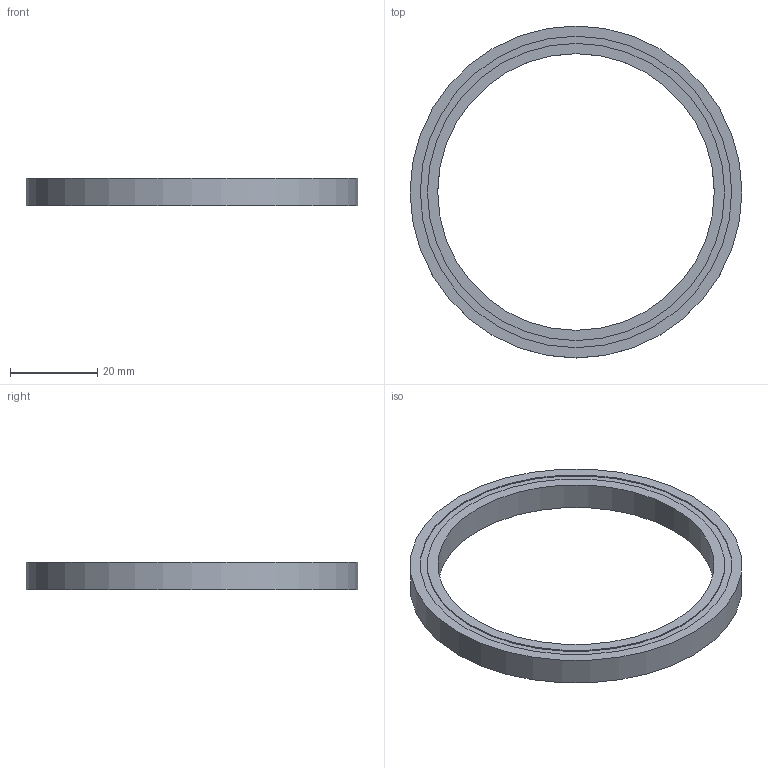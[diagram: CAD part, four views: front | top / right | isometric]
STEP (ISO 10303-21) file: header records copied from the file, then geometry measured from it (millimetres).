
FILE_DESCRIPTION(/* description */ ('STEP AP242 Edition 2','CAx-IF Rec.Pracs.---Representation and Presentation of Product Manufacturing Information (PMI)---4.0---2014-10-13','CAx-IF Rec.Pracs.---3D Tessellated Geometry---0.4---2014-09-14','2;1','CAx-IF Rec.Pracs.---User Defined Attributes---1.5---2016-08-15'),/* implementation_level */ '2;1');
FILE_NAME(/* name */ 'Main - 2.5- ID X-Contact Bearing (3- OD, 0.25- WD)',/* time_stamp */ '2026-09-13T15:49:56Z',/* author */ (''),/* organization */ (''),/* preprocessor_version */ 'ST-DEVELOPER v20',/* originating_system */ 'ONSHAPE BY PTC INC, 1.220',/* authorisation */ ' ');
FILE_SCHEMA (('AP242_MANAGED_MODEL_BASED_3D_ENGINEERING_MIM_LF { 1 0 10303 442 3 1 4 }'));
Length unit declared in the file: metre
Products named in the file (1): 2.5" ID X-Contact Bearing (3" OD, 0.25" WD)
Bounding box: 76.2 x 76.2 x 6.35 mm (x, y, z)
Volume: 8667.2 mm3; surface area: 5796.7 mm2
Topology: 1 solids, 1 shells, 12 faces, 18 edges, 12 vertices
Faces by surface type: cylinder 6, plane 6
Full cylindrical faces by diameter (mm): 63.5 x1, 68.224 x2, 71.476 x2, 76.2 x1
Entity records: 285 total; most frequent: DIRECTION 50, CARTESIAN_POINT 37, AXIS2_PLACEMENT_3D 25, ORIENTED_EDGE 24, EDGE_LOOP 24, FACE_BOUND 24, EDGE_CURVE 12, VERTEX_POINT 12
